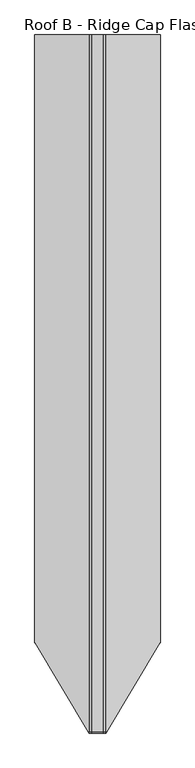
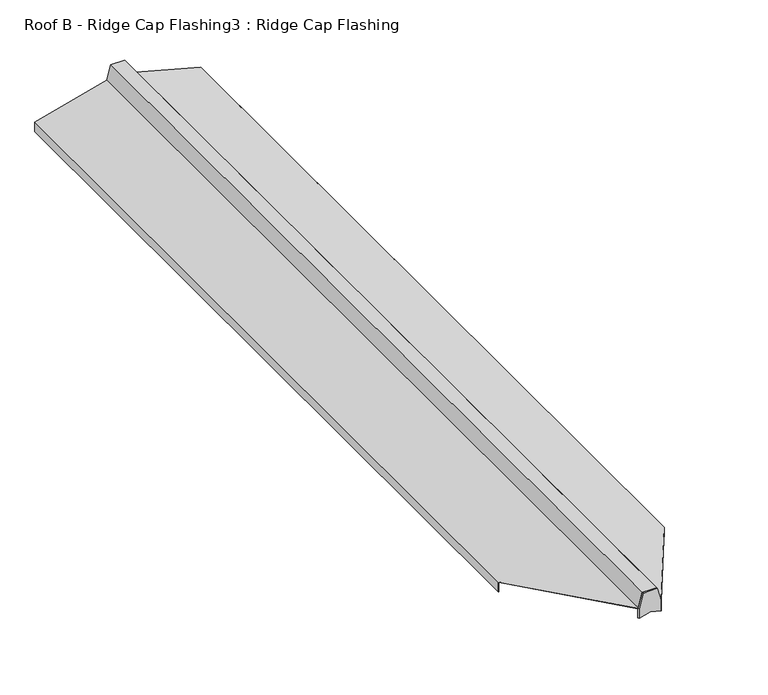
"""IFC4 building model written with IfcOpenShell, lengths in millimetres: proxy geometry, Roof B - Ridge Cap Flashing3 : Ridge Cap Flashing."""

from ifc_helpers import new_model, si_unit, origin, place, context, project, spatial, faceted_brep, source, transform, mapped, element, save


def roof_b_ridge_cap_flashing3_ridge_cap_flashing_0eb95630(model_context):
    return source(origin(), model_context, "Body", "Brep", [
        faceted_brep([(-13801.0115544, -25737.0750445, 4041.5461554), (-13816.7717855, -25737.0750445, 3982.7281721), (-13816.7717855, -25737.0750445, 3943.8259343), (-13773.1375384, -25737.0750445, 3955.5176956), (-13729.5032913, -25737.0750445, 3943.8259343), (-13729.5032913, -25737.0750445, 3982.7281721), (-13745.2635224, -25737.0750445, 4041.5461554), (-13801.0115544, -25732.0750445, 4041.5461554), (-13745.2635224, -25732.0750445, 4041.5461554), (-13729.5032913, -25732.0750445, 3982.7281721), (-13726.4989882, -25732.0750445, 3981.9231715), (-13726.4989882, -25732.0750445, 3943.0209337), (-13773.1375384, -25732.0750445, 3955.5176956), (-13819.7760886, -25732.0750445, 3943.0209337), (-13819.7760886, -25732.0750445, 3981.9231715), (-13816.7717855, -25732.0750445, 3982.7281721)], [[[0, 1, 2, 3, 4, 5, 6]], [[7, 8, 9, 10, 11, 12, 13, 14, 15]], [[1, 0, 7, 15]], [[1, 15, 14]], [[3, 12, 11, 4]], [[9, 5, 10]], [[6, 5, 9, 8]], [[0, 6, 8, 7]], [[12, 3, 2, 13]], [[2, 1, 14, 13]], [[5, 4, 11, 10]]]),
        faceted_brep([(-13745.2635224, -22128.2003751, 4041.5461554), (-13729.5032913, -22128.2003751, 3982.7281721), (-13448.5446303, -22128.2003751, 3907.4455258), (-13448.5446303, -22128.2003751, 3868.543288), (-13449.5446303, -22128.2003751, 3868.543288), (-13449.5446303, -22128.2003751, 3906.6781988), (-13730.3197878, -22128.2003751, 3981.9116755), (-13746.0308494, -22128.2003751, 4040.5461554), (-13800.2442274, -22128.2003751, 4040.5461554), (-13815.955289, -22128.2003751, 3981.9116755), (-14096.7304465, -22128.2003751, 3906.6781988), (-14096.7304465, -22128.2003751, 3868.543288), (-14097.7304465, -22128.2003751, 3868.543288), (-14097.7304465, -22128.2003751, 3907.4455258), (-13816.7717855, -22128.2003751, 3982.7281721), (-13801.0115544, -22128.2003751, 4041.5461554), (-13745.2635224, -25732.0750445, 4041.5461554), (-13801.0115544, -25732.0750445, 4041.5461554), (-13816.7717855, -25732.0750445, 3982.7281721), (-13819.7760886, -25732.0750445, 3981.9231715), (-13819.7760886, -25732.0750445, 3980.8878953), (-13815.955289, -25732.0750445, 3981.9116755), (-13800.2442274, -25732.0750445, 4040.5461554), (-13746.0308494, -25732.0750445, 4040.5461554), (-13730.3197878, -25732.0750445, 3981.9116755), (-13726.4989882, -25732.0750445, 3980.8878953), (-13726.4989882, -25732.0750445, 3981.9231715), (-13729.5032913, -25732.0750445, 3982.7281721), (-14096.7304465, -25271.1455892, 3906.6781988), (-14097.7304465, -25270.5818096, 3907.4455258), (-14097.0691994, -25270.5818096, 3907.6227064), (-14096.7304465, -25271.1455892, 3868.543288), (-14097.0691994, -25270.5818096, 3868.543288), (-14097.7304465, -25270.5818096, 3868.543288), (-13449.2058774, -25270.5818096, 3907.6227064), (-13448.5446303, -25270.5818096, 3907.4455258), (-13448.5446303, -25270.5818096, 3868.543288), (-13449.2058774, -25270.5818096, 3868.543288), (-13449.5446303, -25271.1455892, 3868.543288), (-13449.5446303, -25271.1455892, 3906.6781988)], [[[0, 1, 2, 3, 4, 5, 6, 7, 8, 9, 10, 11, 12, 13, 14, 15]], [[16, 17, 18, 19, 20, 21, 22, 23, 24, 25, 26, 27]], [[0, 15, 17, 16]], [[1, 0, 16, 27]], [[7, 6, 24, 23]], [[8, 7, 23, 22]], [[10, 9, 21, 20, 28]], [[14, 13, 29, 30, 19, 18]], [[9, 8, 22, 21]], [[11, 10, 28, 31]], [[12, 11, 31, 32, 33]], [[13, 12, 33, 29]], [[15, 14, 18, 17]], [[2, 1, 27, 26, 34, 35]], [[3, 2, 35, 36]], [[4, 3, 36, 37, 38]], [[5, 4, 38, 39]], [[6, 5, 39, 25, 24]], [[30, 32, 31, 28, 20, 19]], [[32, 30, 29, 33]], [[37, 34, 26, 25, 39, 38]], [[34, 37, 36, 35]]]),
    ])


if __name__ == "__main__":
    model = new_model("IFC4")
    model_context = context("Model", 3, world=origin())
    ifc_project = project(units=[si_unit("LENGTHUNIT", "METRE", prefix="MILLI")], contexts=[model_context])
    site = spatial("IfcSite", under=ifc_project)
    building = spatial("IfcBuilding", under=site)
    placement = place(None, origin())
    roof_b_ridge_cap_flashing3_ridge_cap_flashing_shape = roof_b_ridge_cap_flashing3_ridge_cap_flashing_0eb95630(model_context)
    element("IfcBuildingElementProxy", 1, Name="Roof B - Ridge Cap Flashing3 : Ridge Cap Flashing", ObjectType="Roof B - Ridge Cap Flashing3 : Ridge Cap Flashing", at=placement, inside=building, context=model_context, shape_type="MappedRepresentation", body=[
        mapped(roof_b_ridge_cap_flashing3_ridge_cap_flashing_shape, transform((0.0, 0.0, 0.0), x_axis=(1.0, 0.0, 0.0), y_axis=(0.0, 1.0, 0.0), z_axis=(0.0, 0.0, 1.0))),
    ])
    save(model, "model.ifc")
